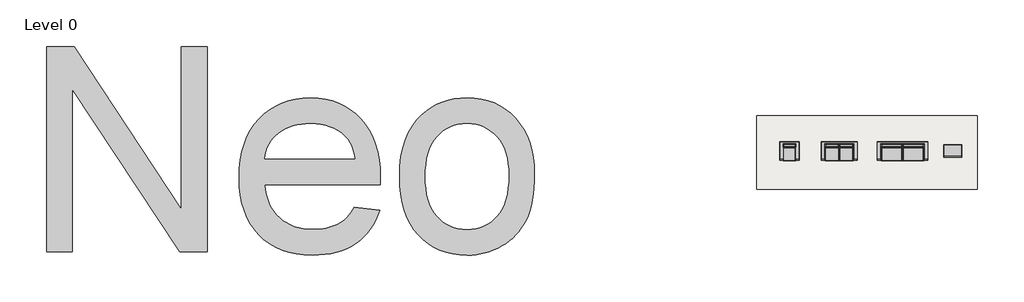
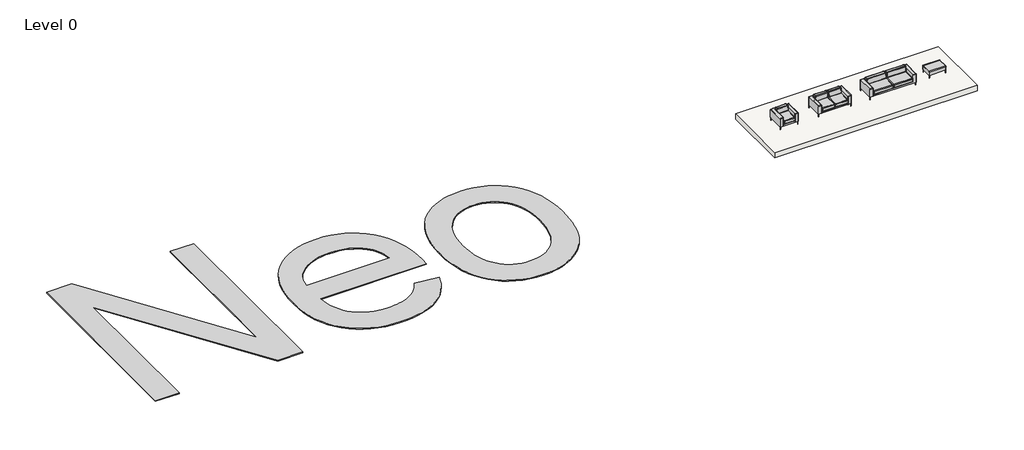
# One storey: 4 furniture elements, 1 proxy, 1 slab.
"""IFC4 building model written with IfcOpenShell, lengths in millimetres."""

from ifc_helpers import new_model, si_unit, frame, origin, origin_with_axes, place, context, project, spatial, polyline, outline, extrude, transform, mapped, element, save
from components import furniture_fc90c400, furniture_efd74d04, furniture_14755b09, furniture_9244cffa, furniture_b4d80ae5, furniture_4171b688, furniture_09b90091

model = new_model("IFC4")

# Units and contexts
model_context = context("Model", 3, world=origin())
ifc_project = project(units=[si_unit("LENGTHUNIT", "METRE", prefix="MILLI")], contexts=[model_context])

# Site, building, storey
site = spatial("IfcSite", under=ifc_project)
building = spatial("IfcBuilding", under=site)
storey = spatial("IfcBuildingStorey", under=building, Name="Level 0", Elevation=0.0)

# Proxy
placement = place(None, origin())
element("IfcBuildingElementProxy", 1, Name="10 mm", ObjectType="10 mm", at=placement, inside=storey, context=model_context, shape_type="SweptSolid", body=[
    extrude(outline(polyline([(-139772.3712311, 70710.4267394), (-139772.3712311, 80756.0577544), (-138428.3756753, 80756.0577544), (-133179.9258775, 72797.5439254), (-133179.9258775, 80756.0577544), (-131924.2220006, 80756.0577544), (-131924.2220006, 70710.4267394), (-133268.2175563, 70710.4267394), (-138516.6673542, 78671.393115), (-138516.6673542, 70710.4267394), (-139772.3712311, 70710.4267394)])), origin_with_axes(), (0.0, 0.0, 1.0), 50.0),
    extrude(outline(polyline([(-124718.6399884, 72907.9085239), (-123487.4615779, 72750.9455393), (-123573.5881179, 72497.0686416), (-123676.2310267, 72257.8303816), (-123795.3903042, 72033.2307594), (-123931.0659504, 71823.2697748), (-124083.2579654, 71627.947428), (-124251.9663491, 71447.2637189), (-124437.1911016, 71281.2186476), (-124638.9322228, 71129.8122139), (-124856.1933657, 70994.7305438), (-125087.9781832, 70877.6597631), (-125334.2866753, 70778.5998716), (-125595.1188419, 70697.5508696), (-125870.4746832, 70634.5127569), (-126160.3541991, 70589.4855335), (-126464.7573896, 70562.4691995), (-126783.6842547, 70553.4637548), (-127183.8708876, 70569.002937), (-127562.8276636, 70615.6204836), (-127920.5545829, 70693.3163945), (-128257.0516454, 70802.0906699), (-128572.318851, 70941.9433096), (-128866.3561999, 71112.8743137), (-129139.1636919, 71314.8836822), (-129390.7413272, 71547.9714151), (-129616.6438648, 71809.1101501), (-129812.4260641, 72095.272525), (-129978.0879251, 72406.4585398), (-130113.6294477, 72742.6681944), (-130219.0506319, 73103.901489), (-130294.3514778, 73490.1584234), (-130339.5319854, 73901.4389977), (-130354.5921545, 74337.7432119), (-130339.3787012, 74788.8968295), (-130293.7383412, 75214.0687812), (-130217.6710745, 75613.259067), (-130111.1769011, 75986.4676869), (-129974.255821, 76333.6946409), (-129806.9078342, 76654.939929), (-129609.1329408, 76950.2035511), (-129380.9311406, 77219.4855074), (-129128.4721214, 77459.7584355), (-128857.9255708, 77667.9949732), (-128569.2914888, 77844.1951205), (-128262.5698753, 77988.3588773), (-127937.7607304, 78100.4862438), (-127594.8640541, 78180.5772198), (-127233.8798463, 78228.6318054), (-126854.8081071, 78244.6500006), (-126488.1332247, 78228.6701265), (-126138.5878477, 78180.730504), (-125806.1719761, 78100.8311331), (-125490.88561, 77988.972014), (-125192.7287492, 77845.1531465), (-124911.7013938, 77669.3745307), (-124647.8035438, 77461.6361665), (-124401.0351993, 77221.938054), (-124177.7193319, 76953.2692344), (-123984.1789135, 76658.6187489), (-123820.4139441, 76337.9865975), (-123686.4244236, 75991.3727802), (-123582.2103522, 75618.7772969), (-123507.7717297, 75220.2001478), (-123463.1085562, 74795.6413327), (-123448.2208317, 74345.1008518), (-123455.5784717, 74006.6494162), (-129098.8882777, 74006.6494162), (-129071.5078938, 73748.3272777), (-129026.1549415, 73505.5634819), (-128962.829421, 73278.3580289), (-128881.5313322, 73066.7109185), (-128782.260675, 72870.6221509), (-128665.0174496, 72690.091726), (-128529.8016559, 72525.1196437), (-128376.6132938, 72375.7059042), (-128209.4377517, 72242.9234966), (-128032.2604179, 72127.84541), (-127845.0812923, 72030.4716444), (-127647.900375, 71950.8021998), (-127440.717666, 71888.8370763), (-127223.5331652, 71844.5762737), (-126996.3468726, 71818.0197922), (-126759.1587883, 71809.1676317), (-126582.1922202, 71813.2679831), (-126411.8168712, 71825.5690373), (-126248.0327413, 71846.0707943), (-126090.8398304, 71874.7732541), (-125940.2381387, 71911.6764168), (-125796.227666, 71956.7802822), (-125658.8084124, 72010.0848505), (-125527.9803778, 72071.5901216), (-125403.7435624, 72142.0625163), (-125286.097966, 72222.2684554), (-125175.0435887, 72312.207939), (-125070.5804305, 72411.8809671), (-124972.7084913, 72521.2875396), (-124881.4277713, 72640.4276566), (-124796.7382703, 72769.301318), (-124718.6399884, 72907.9085239)]), holes=[polyline([(-129098.8882777, 75262.3532931), (-124703.9247086, 75262.3532931), (-124731.0943268, 75445.9110802), (-124768.4573419, 75617.6659867), (-124816.013754, 75777.6180126), (-124873.7635631, 75925.7671577), (-124941.706769, 76062.1134222), (-125019.843372, 76186.6568059), (-125108.1733719, 76299.3973091), (-125206.6967687, 76400.3349315), (-125372.0137403, 76538.2906797), (-125549.1335925, 76657.8523281), (-125738.0563255, 76759.0198768), (-125938.7819391, 76841.7933257), (-126151.3104334, 76906.1726748), (-126375.6418084, 76952.1579242), (-126611.776064, 76979.7490739), (-126859.7132004, 76988.9461238), (-127085.0600829, 76981.6076444), (-127301.2482367, 76959.5922062), (-127508.2776615, 76922.8998093), (-127706.1483576, 76871.5304536), (-127894.8603248, 76805.4841392), (-128074.4135632, 76724.760866), (-128244.8080727, 76629.360634), (-128406.0438534, 76519.2834433), (-128553.9439118, 76396.9051983), (-128684.3312544, 76264.6018037), (-128797.2058811, 76122.3732594), (-128892.567792, 75970.2195655), (-128970.4169872, 75808.1407218), (-129030.7534665, 75636.1367286), (-129073.57723, 75454.2075857), (-129098.8882777, 75262.3532931)])]), origin_with_axes(), (0.0, 0.0, 1.0), 50.0),
    extrude(outline(polyline([(-122506.4429241, 74399.0568777), (-122489.4667029, 74893.2833456), (-122438.5380392, 75354.477076), (-122353.656933, 75782.638069), (-122234.8233843, 76177.7663244), (-122082.0373932, 76539.8618424), (-121895.2989596, 76868.9246228), (-121674.6080835, 77164.9546658), (-121419.964765, 77427.9519713), (-121186.8961926, 77619.365572), (-120941.4116029, 77785.2573592), (-120683.5109959, 77925.6273329), (-120413.1943715, 78040.4754933), (-120130.4617298, 78129.8018403), (-119835.3130708, 78193.6063738), (-119527.7483944, 78231.8890939), (-119207.7677007, 78244.6500006), (-118853.0873042, 78229.1108184), (-118514.9999185, 78182.4932719), (-118193.5055437, 78104.7973609), (-117888.6041796, 77996.0230856), (-117600.2958264, 77856.1704458), (-117328.5804841, 77685.2394417), (-117073.4581525, 77483.2300732), (-116834.9288318, 77250.1423403), (-116619.0855674, 76989.655063), (-116432.021405, 76705.4470612), (-116273.7363445, 76397.518335), (-116144.2303858, 76065.8688842), (-116043.5035291, 75710.498709), (-115971.5557744, 75331.4078092), (-115928.3871215, 74928.596185), (-115913.9975705, 74502.0638364), (-115920.3588634, 74156.5230082), (-115939.4427419, 73829.9127743), (-115971.249206, 73522.2331348), (-116015.7782559, 73233.4840897), (-116073.0298914, 72963.6656388), (-116143.0041125, 72712.7777823), (-116225.7009194, 72480.8205202), (-116321.1203119, 72267.7938523), (-116428.7066349, 72069.9231563), (-116547.9042335, 71883.4338094), (-116678.7131075, 71708.3258118), (-116821.133257, 71544.5991635), (-116975.1646819, 71392.2538643), (-117140.8073824, 71251.2899144), (-117318.0613583, 71121.7073137), (-117506.9266096, 71003.5060622), (-117703.8392797, 70898.0273964), (-117905.2355115, 70806.6125527), (-118111.1153052, 70729.2615311), (-118321.4786606, 70665.9743317), (-118536.3255779, 70616.7509543), (-118755.656057, 70581.591399), (-118979.4700979, 70560.4956659), (-119207.7677007, 70553.4637548), (-119568.0429692, 70568.9454554), (-119910.6522377, 70615.3905573), (-120235.5955063, 70692.7990605), (-120542.8727748, 70801.1709649), (-120832.4840434, 70940.5062706), (-121104.4293121, 71110.8049775), (-121358.7085807, 71312.0670857), (-121595.3218494, 71544.2925951), (-121808.8658513, 71805.6420959), (-121993.9373196, 72094.2761779), (-122150.5362543, 72410.1948413), (-122278.6626554, 72753.398086), (-122378.316523, 73123.8859119), (-122449.4978569, 73521.6583192), (-122492.2066573, 73946.7153078), (-122506.4429241, 74399.0568777)]), holes=[polyline([(-121250.7390472, 74401.5094244), (-121241.6569605, 74086.7595527), (-121214.4107002, 73792.4347961), (-121169.0002664, 73518.5351544), (-121105.4256591, 73265.0606276), (-121023.6868783, 73032.0112157), (-120923.783924, 72819.3869188), (-120805.7167962, 72627.1877369), (-120669.4854948, 72455.4136699), (-120519.4969397, 72303.9497547), (-120360.1580506, 72172.6810282), (-120191.4688274, 72061.6074903), (-120013.4292701, 71970.7291412), (-119826.0393788, 71900.0459808), (-119629.2991535, 71849.5580091), (-119423.2085941, 71819.265226), (-119207.7677007, 71809.1676317), (-118993.4764385, 71819.3227076), (-118788.3822262, 71849.7879353), (-118592.4850637, 71900.5633148), (-118405.7849512, 71971.6488462), (-118228.2818885, 72063.0445294), (-118059.9758757, 72174.7503644), (-117900.8669128, 72306.7663512), (-117750.9549998, 72459.0924898), (-117614.7236984, 72632.2269538), (-117496.6565706, 72826.6679167), (-117396.7536163, 73042.4153784), (-117315.0148355, 73279.4693391), (-117251.4402282, 73537.8297986), (-117206.0297944, 73817.496757), (-117178.7835342, 74118.4702143), (-117169.7014474, 74440.7501705), (-117178.8410157, 74745.153361), (-117206.2597207, 75030.510994), (-117251.9575623, 75296.8230696), (-117315.9345405, 75544.0895877), (-117398.1906553, 75772.3105484), (-117498.7259068, 75981.4859516), (-117617.540295, 76171.6157973), (-117754.6338197, 76342.7000856), (-117905.2929931, 76494.1640008), (-118064.8043269, 76625.4327273), (-118233.1678213, 76736.5062651), (-118410.3834761, 76827.3846142), (-118596.4512915, 76898.0677746), (-118791.3712674, 76948.5557464), (-118995.1434038, 76978.8485294), (-119207.7677007, 76988.9461238), (-119423.2085941, 76978.8868505), (-119629.2991535, 76948.7090305), (-119826.0393788, 76898.412664), (-120013.4292701, 76827.9977509), (-120191.4688274, 76737.4642911), (-120360.1580506, 76626.8122848), (-120519.4969397, 76496.0417318), (-120669.4854948, 76345.1526322), (-120805.7167962, 76173.9533808), (-120923.783924, 75982.2523724), (-121023.6868783, 75770.0496069), (-121105.4256591, 75537.3450845), (-121169.0002664, 75284.138805), (-121214.4107002, 75010.4307685), (-121241.6569605, 74716.2209749), (-121250.7390472, 74401.5094244)])]), origin_with_axes(), (0.0, 0.0, 1.0), 50.0),
])

# Furniture
furniture_shape = furniture_fc90c400(model_context)
element("IfcFurniture", 2, ObjectType="Pouf_Bensen_Neo_NEO000IT : Pouf_Bensen_Neo_NEO000IT", at=placement, inside=storey, context=model_context, shape_type="MappedRepresentation", body=[
    mapped(furniture_shape, transform((-95455.6586914, 75653.8471098, 0.0), x_axis=(1.0, 0.0, 0.0), y_axis=(0.0, 1.0, 0.0), z_axis=(0.0, 0.0, 1.0))),
])
furniture_2_shape = furniture_efd74d04(model_context)
furniture_3_shape = furniture_14755b09(model_context)
element("IfcFurniture", 3, ObjectType="Armchair_Bensen_Neo_NEO100IT : Armchair_Bensen_Neo_NEO100IT", at=placement, inside=storey, context=model_context, shape_type="MappedRepresentation", body=[
    mapped(furniture_2_shape, transform((-103439.4947536, 75653.8471098, 0.0), x_axis=(1.0, 0.0, 0.0), y_axis=(0.0, 1.0, 0.0), z_axis=(0.0, 0.0, 1.0))),
    mapped(furniture_3_shape, transform((-103439.4947536, 75653.8471098, 0.0), x_axis=(1.0, 0.0, 0.0), y_axis=(0.0, 1.0, 0.0), z_axis=(0.0, 0.0, 1.0))),
])
furniture_4_shape = furniture_9244cffa(model_context)
furniture_5_shape = furniture_b4d80ae5(model_context)
element("IfcFurniture", 4, ObjectType="Sofa_Bensen_Neo_NEO300IT : Sofa_Bensen_Neo_NEO300IT", at=placement, inside=storey, context=model_context, shape_type="MappedRepresentation", body=[
    mapped(furniture_4_shape, transform((-97914.5380802, 75653.8471098, 0.0), x_axis=(1.0, 0.0, 0.0), y_axis=(0.0, 1.0, 0.0), z_axis=(0.0, 0.0, 1.0))),
    mapped(furniture_5_shape, transform((-97914.5380802, 75653.8471098, 0.0), x_axis=(1.0, 0.0, 0.0), y_axis=(0.0, 1.0, 0.0), z_axis=(0.0, 0.0, 1.0))),
])
furniture_6_shape = furniture_4171b688(model_context)
furniture_7_shape = furniture_09b90091(model_context)
element("IfcFurniture", 5, ObjectType="Sofa_Bensen_Neo_NEO200IT : Sofa_Bensen_Neo_NEO200IT", at=placement, inside=storey, context=model_context, shape_type="MappedRepresentation", body=[
    mapped(furniture_6_shape, transform((-101010.9295621, 75653.8471098, 0.0), x_axis=(1.0, 0.0, 0.0), y_axis=(0.0, 1.0, 0.0), z_axis=(0.0, 0.0, 1.0))),
    mapped(furniture_7_shape, transform((-101010.9295621, 75653.8471098, 0.0), x_axis=(1.0, 0.0, 0.0), y_axis=(0.0, 1.0, 0.0), z_axis=(0.0, 0.0, 1.0))),
])

# Slab
element("IfcSlab", 6, ObjectType="FL_300 mm_Generic", at=placement, inside=storey, context=model_context, shape_type="SweptSolid", body=[
    extrude(outline(polyline([(-94247.8885325, 77369.9753886), (-94247.8885325, 73769.9753886), (-105047.8885325, 73769.9753886), (-105047.8885325, 77369.9753886), (-94247.8885325, 77369.9753886)])), frame((0.0, 0.0, -300.0), z_axis=(0.0, 0.0, 1.0), x_axis=(1.0, 0.0, 0.0)), (0.0, 0.0, 1.0), 300.0),
])

save(model, "model.ifc")
